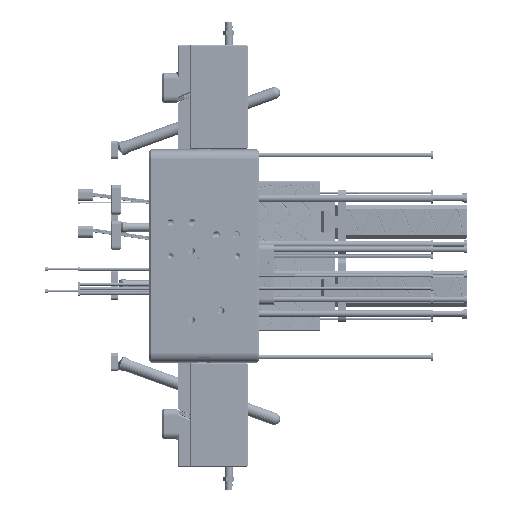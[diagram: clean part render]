
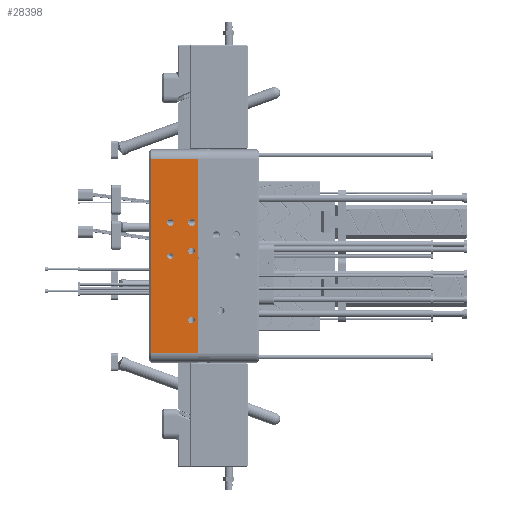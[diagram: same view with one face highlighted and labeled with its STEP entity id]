
A CAD part, left-side view. The second image highlights one B-rep face of the part: STEP entity #28398.
In plain terms, the highlighted planar face has unit normal (-1, 0, 0).
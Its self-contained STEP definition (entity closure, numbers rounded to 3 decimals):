
#93=DIRECTION('',(0.,0.,1.));
#94=VECTOR('',#93,318.);
#95=CARTESIAN_POINT('',(45.,117.,-159.));
#96=LINE('',#95,#94);
#97=DIRECTION('',(0.,0.,1.));
#98=VECTOR('',#97,318.);
#99=CARTESIAN_POINT('',(45.,39.5,-159.));
#100=LINE('',#99,#98);
#101=CARTESIAN_POINT('',(45.,50.,-105.2));
#102=DIRECTION('',(-1.,0.,0.));
#103=DIRECTION('',(0.,1.,0.));
#104=AXIS2_PLACEMENT_3D('',#101,#102,#103);
#106=CARTESIAN_POINT('',(45.,50.,-105.2));
#107=DIRECTION('',(-1.,0.,0.));
#108=DIRECTION('',(0.,-1.,0.));
#109=AXIS2_PLACEMENT_3D('',#106,#107,#108);
#111=CARTESIAN_POINT('',(45.,50.,8.2));
#112=DIRECTION('',(-1.,0.,0.));
#113=DIRECTION('',(0.,1.,0.));
#114=AXIS2_PLACEMENT_3D('',#111,#112,#113);
#116=CARTESIAN_POINT('',(45.,50.,8.2));
#117=DIRECTION('',(-1.,0.,0.));
#118=DIRECTION('',(0.,-1.,0.));
#119=AXIS2_PLACEMENT_3D('',#116,#117,#118);
#121=CARTESIAN_POINT('',(45.,50.,55.));
#122=DIRECTION('',(-1.,0.,0.));
#123=DIRECTION('',(0.,1.,0.));
#124=AXIS2_PLACEMENT_3D('',#121,#122,#123);
#126=CARTESIAN_POINT('',(45.,50.,55.));
#127=DIRECTION('',(-1.,0.,0.));
#128=DIRECTION('',(0.,-1.,0.));
#129=AXIS2_PLACEMENT_3D('',#126,#127,#128);
#131=CARTESIAN_POINT('',(45.,85.,55.));
#132=DIRECTION('',(-1.,0.,0.));
#133=DIRECTION('',(0.,1.,0.));
#134=AXIS2_PLACEMENT_3D('',#131,#132,#133);
#136=CARTESIAN_POINT('',(45.,85.,55.));
#137=DIRECTION('',(-1.,0.,0.));
#138=DIRECTION('',(0.,-1.,0.));
#139=AXIS2_PLACEMENT_3D('',#136,#137,#138);
#141=CARTESIAN_POINT('',(45.,85.,0.));
#142=DIRECTION('',(-1.,0.,0.));
#143=DIRECTION('',(0.,1.,0.));
#144=AXIS2_PLACEMENT_3D('',#141,#142,#143);
#146=CARTESIAN_POINT('',(45.,85.,0.));
#147=DIRECTION('',(-1.,0.,0.));
#148=DIRECTION('',(0.,-1.,0.));
#149=AXIS2_PLACEMENT_3D('',#146,#147,#148);
#151=DIRECTION('',(0.,-1.,0.));
#152=VECTOR('',#151,77.5);
#153=CARTESIAN_POINT('',(45.,117.,-159.));
#154=LINE('',#153,#152);
#20774=DIRECTION('',(0.,1.,0.));
#20775=VECTOR('',#20774,77.5);
#20776=CARTESIAN_POINT('',(45.,39.5,159.));
#20777=LINE('',#20776,#20775);
#25117=CARTESIAN_POINT('',(45.,117.,-159.));
#25119=VERTEX_POINT('',#25117);
#25122=CARTESIAN_POINT('',(45.,117.,159.));
#25123=VERTEX_POINT('',#25122);
#26426=CARTESIAN_POINT('',(45.,39.5,-159.));
#26427=VERTEX_POINT('',#26426);
#26432=CARTESIAN_POINT('',(45.,39.5,159.));
#26433=VERTEX_POINT('',#26432);
#26472=CARTESIAN_POINT('',(45.,55.725,-105.2));
#26473=VERTEX_POINT('',#26472);
#26476=CARTESIAN_POINT('',(45.,44.275,-105.2));
#26477=VERTEX_POINT('',#26476);
#26488=CARTESIAN_POINT('',(45.,55.725,8.2));
#26489=VERTEX_POINT('',#26488);
#26492=CARTESIAN_POINT('',(45.,44.275,8.2));
#26493=VERTEX_POINT('',#26492);
#26504=CARTESIAN_POINT('',(45.,55.725,55.));
#26505=VERTEX_POINT('',#26504);
#26508=CARTESIAN_POINT('',(45.,44.275,55.));
#26509=VERTEX_POINT('',#26508);
#26520=CARTESIAN_POINT('',(45.,90.725,55.));
#26521=VERTEX_POINT('',#26520);
#26524=CARTESIAN_POINT('',(45.,79.275,55.));
#26525=VERTEX_POINT('',#26524);
#27279=CARTESIAN_POINT('',(45.,90.1,0.));
#27280=CARTESIAN_POINT('',(45.,79.9,0.));
#27281=VERTEX_POINT('',#27279);
#27282=VERTEX_POINT('',#27280);
#28353=CARTESIAN_POINT('',(45.,0.,0.));
#28354=DIRECTION('',(1.,0.,0.));
#28355=DIRECTION('',(0.,1.,0.));
#28356=AXIS2_PLACEMENT_3D('',#28353,#28354,#28355);
#28357=PLANE('',#28356);
#28359=ORIENTED_EDGE('',*,*,#28358,.F.);
#28361=ORIENTED_EDGE('',*,*,#28360,.T.);
#28363=ORIENTED_EDGE('',*,*,#28362,.F.);
#28365=ORIENTED_EDGE('',*,*,#28364,.F.);
#28366=EDGE_LOOP('',(#28359,#28361,#28363,#28365));
#28367=FACE_OUTER_BOUND('',#28366,.F.);
#28369=ORIENTED_EDGE('',*,*,#28368,.T.);
#28371=ORIENTED_EDGE('',*,*,#28370,.T.);
#28372=EDGE_LOOP('',(#28369,#28371));
#28373=FACE_BOUND('',#28372,.F.);
#28375=ORIENTED_EDGE('',*,*,#28374,.T.);
#28377=ORIENTED_EDGE('',*,*,#28376,.T.);
#28378=EDGE_LOOP('',(#28375,#28377));
#28379=FACE_BOUND('',#28378,.F.);
#28381=ORIENTED_EDGE('',*,*,#28380,.T.);
#28383=ORIENTED_EDGE('',*,*,#28382,.T.);
#28384=EDGE_LOOP('',(#28381,#28383));
#28385=FACE_BOUND('',#28384,.F.);
#28387=ORIENTED_EDGE('',*,*,#28386,.T.);
#28389=ORIENTED_EDGE('',*,*,#28388,.T.);
#28390=EDGE_LOOP('',(#28387,#28389));
#28391=FACE_BOUND('',#28390,.F.);
#28393=ORIENTED_EDGE('',*,*,#28392,.T.);
#28395=ORIENTED_EDGE('',*,*,#28394,.T.);
#28396=EDGE_LOOP('',(#28393,#28395));
#28397=FACE_BOUND('',#28396,.F.);
#105=CIRCLE('',#104,5.725);
#110=CIRCLE('',#109,5.725);
#115=CIRCLE('',#114,5.725);
#120=CIRCLE('',#119,5.725);
#125=CIRCLE('',#124,5.725);
#130=CIRCLE('',#129,5.725);
#135=CIRCLE('',#134,5.725);
#140=CIRCLE('',#139,5.725);
#145=CIRCLE('',#144,5.1);
#150=CIRCLE('',#149,5.1);
#28358=EDGE_CURVE('',#25119,#26427,#154,.T.);
#28360=EDGE_CURVE('',#25119,#25123,#96,.T.);
#28362=EDGE_CURVE('',#26433,#25123,#20777,.T.);
#28364=EDGE_CURVE('',#26427,#26433,#100,.T.);
#28368=EDGE_CURVE('',#26473,#26477,#105,.T.);
#28370=EDGE_CURVE('',#26477,#26473,#110,.T.);
#28374=EDGE_CURVE('',#26489,#26493,#115,.T.);
#28376=EDGE_CURVE('',#26493,#26489,#120,.T.);
#28380=EDGE_CURVE('',#26505,#26509,#125,.T.);
#28382=EDGE_CURVE('',#26509,#26505,#130,.T.);
#28386=EDGE_CURVE('',#26521,#26525,#135,.T.);
#28388=EDGE_CURVE('',#26525,#26521,#140,.T.);
#28392=EDGE_CURVE('',#27281,#27282,#145,.T.);
#28394=EDGE_CURVE('',#27282,#27281,#150,.T.);
#28398=ADVANCED_FACE('',(#28367,#28373,#28379,#28385,#28391,#28397),#28357,.F.);
